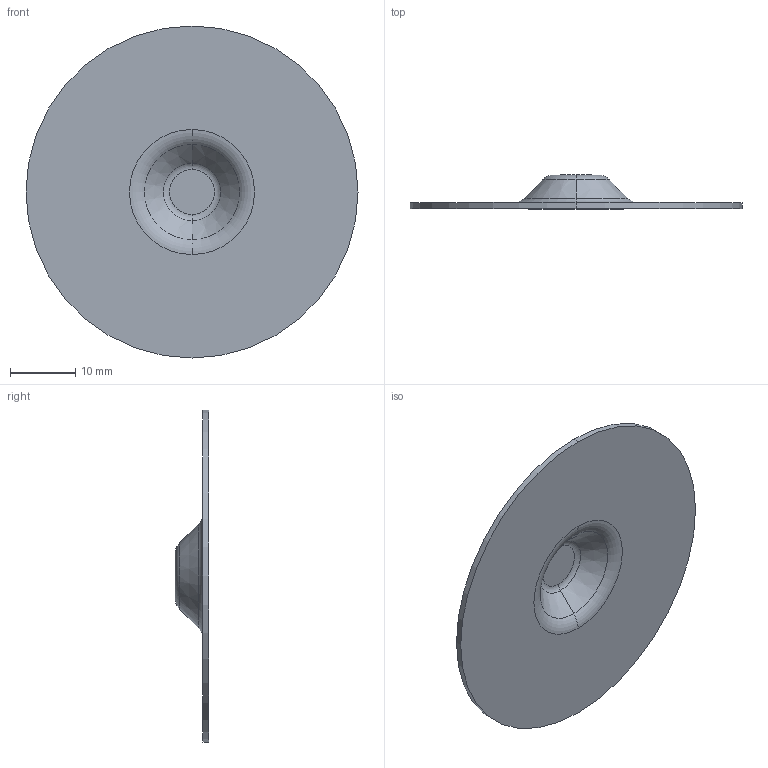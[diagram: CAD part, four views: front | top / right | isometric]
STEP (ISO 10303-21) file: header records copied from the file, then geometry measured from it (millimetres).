
FILE_DESCRIPTION (( 'STEP AP203' ), '1' );
FILE_NAME ('SO 901670-20.STEP', '2024-09-16T17:21:09', ( '' ), ( '' ), 'SwSTEP 2.0', 'SolidWorks 2024', '' );
FILE_SCHEMA (( 'CONFIG_CONTROL_DESIGN' ));
Length unit declared in the file: inch
Products named in the file (1): SO 901670-20
Bounding box: 50.8 x 5.16 x 50.8 mm (x, y, z)
Volume: 1909.6 mm3; surface area: 4322.7 mm2
Topology: 1 solids, 1 shells, 18 faces, 34 edges, 20 vertices
Faces by surface type: torus 8, cone 4, plane 4, cylinder 2
Entity records: 541 total; most frequent: DIRECTION 100, CARTESIAN_POINT 73, ORIENTED_EDGE 68, AXIS2_PLACEMENT_3D 47, EDGE_CURVE 34, CIRCLE 28, VERTEX_POINT 20, EDGE_LOOP 20
